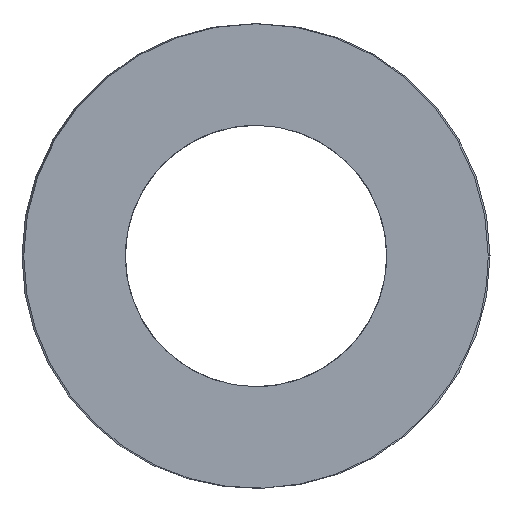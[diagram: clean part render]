
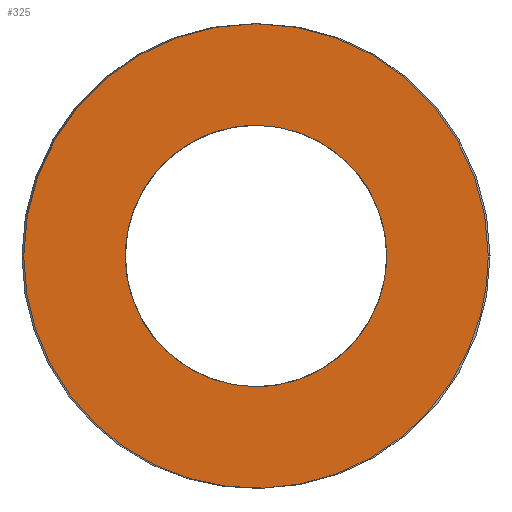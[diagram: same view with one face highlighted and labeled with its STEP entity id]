
A CAD part, left-side view. The second image highlights one B-rep face of the part: STEP entity #325.
In plain terms, the highlighted planar face has unit normal (-1, 0, 0).
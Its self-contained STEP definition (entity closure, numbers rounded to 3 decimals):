
#63=CARTESIAN_POINT('Vertex',(0.,18.75,0.)) ;
#89=CARTESIAN_POINT('Vertex',(0.,-18.75,0.)) ;
#93=CARTESIAN_POINT('Control Point',(0.,18.75,0.)) ;
#94=CARTESIAN_POINT('Control Point',(0.,18.75,-2.945)) ;
#95=CARTESIAN_POINT('Control Point',(0.,18.172,-5.89)) ;
#96=CARTESIAN_POINT('Control Point',(0.,17.015,-8.684)) ;
#97=CARTESIAN_POINT('Control Point',(0.,13.667,-13.667)) ;
#98=CARTESIAN_POINT('Control Point',(0.,8.684,-17.015)) ;
#99=CARTESIAN_POINT('Control Point',(0.,5.89,-18.172)) ;
#100=CARTESIAN_POINT('Control Point',(0.,0.,-19.328)) ;
#101=CARTESIAN_POINT('Control Point',(0.,-5.89,-18.172)) ;
#102=CARTESIAN_POINT('Control Point',(0.,-8.684,-17.015)) ;
#103=CARTESIAN_POINT('Control Point',(0.,-13.667,-13.667)) ;
#104=CARTESIAN_POINT('Control Point',(0.,-17.015,-8.684)) ;
#105=CARTESIAN_POINT('Control Point',(0.,-18.172,-5.89)) ;
#106=CARTESIAN_POINT('Control Point',(0.,-18.75,-2.945)) ;
#107=CARTESIAN_POINT('Control Point',(0.,-18.75,0.)) ;
#121=CARTESIAN_POINT('Axis2P3D Location',(0.,0.,0.)) ;
#256=CARTESIAN_POINT('Axis2P3D Location',(0.,9.375,0.)) ;
#266=CARTESIAN_POINT('Control Point',(0.,0.,-10.55)) ;
#267=CARTESIAN_POINT('Control Point',(0.,0.955,-10.55)) ;
#268=CARTESIAN_POINT('Control Point',(0.,1.909,-10.442)) ;
#269=CARTESIAN_POINT('Control Point',(0.,2.848,-10.226)) ;
#270=CARTESIAN_POINT('Control Point',(0.,4.66,-9.585)) ;
#271=CARTESIAN_POINT('Control Point',(0.,6.283,-8.556)) ;
#272=CARTESIAN_POINT('Control Point',(0.,7.032,-7.952)) ;
#273=CARTESIAN_POINT('Control Point',(0.,8.381,-6.584)) ;
#274=CARTESIAN_POINT('Control Point',(0.,9.391,-4.949)) ;
#275=CARTESIAN_POINT('Control Point',(0.,9.801,-4.077)) ;
#276=CARTESIAN_POINT('Control Point',(0.,10.416,-2.257)) ;
#277=CARTESIAN_POINT('Control Point',(0.,10.61,-0.345)) ;
#278=CARTESIAN_POINT('Control Point',(0.,10.597,0.618)) ;
#279=CARTESIAN_POINT('Control Point',(0.,10.355,2.524)) ;
#280=CARTESIAN_POINT('Control Point',(0.,9.693,4.328)) ;
#281=CARTESIAN_POINT('Control Point',(0.,9.26,5.189)) ;
#282=CARTESIAN_POINT('Control Point',(0.,8.209,6.797)) ;
#283=CARTESIAN_POINT('Control Point',(0.,6.825,8.13)) ;
#284=CARTESIAN_POINT('Control Point',(0.,6.06,8.715)) ;
#285=CARTESIAN_POINT('Control Point',(0.,4.458,9.674)) ;
#286=CARTESIAN_POINT('Control Point',(0.,2.687,10.262)) ;
#287=CARTESIAN_POINT('Control Point',(0.,1.801,10.454)) ;
#288=CARTESIAN_POINT('Control Point',(0.,0.9,10.55)) ;
#289=CARTESIAN_POINT('Control Point',(0.,0.,10.55)) ;
#290=CARTESIAN_POINT('Vertex',(0.,0.,-10.55)) ;
#292=CARTESIAN_POINT('Vertex',(0.,0.,10.55)) ;
#296=CARTESIAN_POINT('Control Point',(0.,0.,10.55)) ;
#297=CARTESIAN_POINT('Control Point',(0.,-0.955,10.55)) ;
#298=CARTESIAN_POINT('Control Point',(0.,-1.909,10.442)) ;
#299=CARTESIAN_POINT('Control Point',(0.,-2.848,10.226)) ;
#300=CARTESIAN_POINT('Control Point',(0.,-4.66,9.585)) ;
#301=CARTESIAN_POINT('Control Point',(0.,-6.283,8.556)) ;
#302=CARTESIAN_POINT('Control Point',(0.,-7.032,7.952)) ;
#303=CARTESIAN_POINT('Control Point',(0.,-8.381,6.584)) ;
#304=CARTESIAN_POINT('Control Point',(0.,-9.391,4.949)) ;
#305=CARTESIAN_POINT('Control Point',(0.,-9.801,4.077)) ;
#306=CARTESIAN_POINT('Control Point',(0.,-10.416,2.257)) ;
#307=CARTESIAN_POINT('Control Point',(0.,-10.61,0.345)) ;
#308=CARTESIAN_POINT('Control Point',(0.,-10.597,-0.618)) ;
#309=CARTESIAN_POINT('Control Point',(0.,-10.355,-2.524)) ;
#310=CARTESIAN_POINT('Control Point',(0.,-9.693,-4.328)) ;
#311=CARTESIAN_POINT('Control Point',(0.,-9.26,-5.189)) ;
#312=CARTESIAN_POINT('Control Point',(0.,-8.209,-6.797)) ;
#313=CARTESIAN_POINT('Control Point',(0.,-6.825,-8.13)) ;
#314=CARTESIAN_POINT('Control Point',(0.,-6.06,-8.715)) ;
#315=CARTESIAN_POINT('Control Point',(0.,-4.458,-9.674)) ;
#316=CARTESIAN_POINT('Control Point',(0.,-2.687,-10.262)) ;
#317=CARTESIAN_POINT('Control Point',(0.,-1.801,-10.454)) ;
#318=CARTESIAN_POINT('Control Point',(0.,-0.9,-10.55)) ;
#319=CARTESIAN_POINT('Control Point',(0.,0.,-10.55)) ;
#122=DIRECTION('Axis2P3D Direction',(1.,-0.,0.)) ;
#257=DIRECTION('Axis2P3D Direction',(-1.,0.,0.)) ;
#258=DIRECTION('Axis2P3D XDirection',(0.,1.,0.)) ;
#123=AXIS2_PLACEMENT_3D('Circle Axis2P3D',#121,#122,$) ;
#259=AXIS2_PLACEMENT_3D('Plane Axis2P3D',#256,#257,#258) ;
#262=ORIENTED_EDGE('',*,*,#108,.T.) ;
#263=ORIENTED_EDGE('',*,*,#125,.T.) ;
#322=ORIENTED_EDGE('',*,*,#294,.T.) ;
#323=ORIENTED_EDGE('',*,*,#320,.T.) ;
#324=FACE_BOUND('',#321,.T.) ;
#325=ADVANCED_FACE('392-B40-139',(#264,#324),#260,.T.) ;
#92=B_SPLINE_CURVE_WITH_KNOTS('',5,(#93,#94,#95,#96,#97,#98,#99,#100,#101,#102,#103,#104,#105,#106,#107),.UNSPECIFIED.,.F.,.U.,(6,3,3,3,6),(-29.452,-14.726,0.,14.726,29.452),.UNSPECIFIED.) ;
#265=B_SPLINE_CURVE_WITH_KNOTS('',5,(#266,#267,#268,#269,#270,#271,#272,#273,#274,#275,#276,#277,#278,#279,#280,#281,#282,#283,#284,#285,#286,#287,#288,#289),.UNSPECIFIED.,.F.,.U.,(6,3,3,3,3,3,3,6),(0.,6.751,13.502,20.253,27.004,33.755,40.506,46.872),.UNSPECIFIED.) ;
#295=B_SPLINE_CURVE_WITH_KNOTS('',5,(#296,#297,#298,#299,#300,#301,#302,#303,#304,#305,#306,#307,#308,#309,#310,#311,#312,#313,#314,#315,#316,#317,#318,#319),.UNSPECIFIED.,.F.,.U.,(6,3,3,3,3,3,3,6),(0.,6.751,13.502,20.253,27.004,33.755,40.506,46.872),.UNSPECIFIED.) ;
#124=CIRCLE('generated circle',#123,18.75) ;
#108=EDGE_CURVE('',#64,#90,#92,.T.) ;
#125=EDGE_CURVE('',#90,#64,#124,.F.) ;
#294=EDGE_CURVE('',#291,#293,#265,.T.) ;
#320=EDGE_CURVE('',#293,#291,#295,.T.) ;
#261=EDGE_LOOP('',(#262,#263)) ;
#321=EDGE_LOOP('',(#322,#323)) ;
#264=FACE_OUTER_BOUND('',#261,.T.) ;
#260=PLANE('Plane',#259) ;
#64=VERTEX_POINT('',#63) ;
#90=VERTEX_POINT('',#89) ;
#291=VERTEX_POINT('',#290) ;
#293=VERTEX_POINT('',#292) ;
